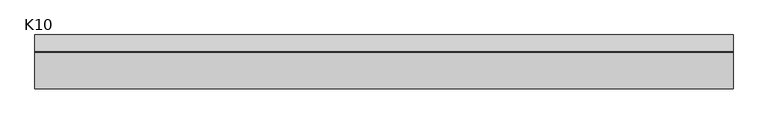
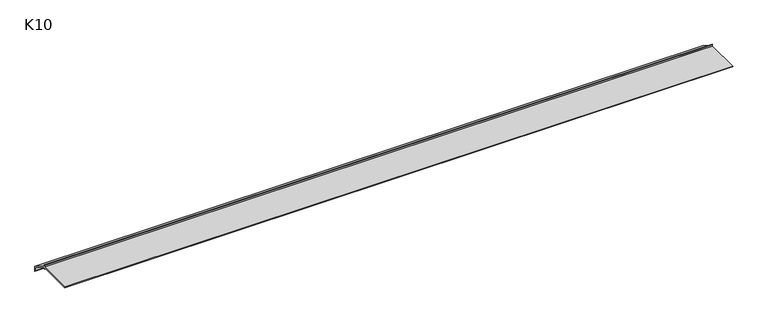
"""IFC4 building model written with IfcOpenShell, lengths in millimetres: proxy geometry, K10 Profil okapowy prosty bez rynny : K10."""

from ifc_helpers import new_model, si_unit, frame, origin, place, context, project, spatial, polyline, outline, extrude, source, transform, mapped, element, save


def k10_6952bd4f(model_context):
    return source(origin(), model_context, "Body", "SweptSolid", [
        extrude(outline(polyline([(1.25, -3.0), (31.25, -21.1), (31.25, -30.42), (30.0, -29.17), (30.0, -21.8057194), (1.25, -4.4598861), (1.25, -7.25), (0.0, -7.25), (0.0, -4.25), (-65.0, -4.25), (-65.0, -3.0), (0.0, -3.0), (0.0, 0.0), (1.25, 0.0), (1.25, -3.0)])), frame((0.0, 0.0, 0.0), z_axis=(1.0, 0.0, 0.0), x_axis=(0.0, 1.0, 0.0)), (0.0, 0.0, 1.0), 1245.5705088),
    ])


if __name__ == "__main__":
    model = new_model("IFC4")
    model_context = context("Model", 3, world=origin())
    ifc_project = project(units=[si_unit("LENGTHUNIT", "METRE", prefix="MILLI")], contexts=[model_context])
    site = spatial("IfcSite", under=ifc_project)
    building = spatial("IfcBuilding", under=site)
    placement = place(None, origin())
    k10_shape = k10_6952bd4f(model_context)
    element("IfcBuildingElementProxy", 1, Name="K10 Profil okapowy prosty bez rynny : K10", ObjectType="K10 Profil okapowy prosty bez rynny : K10", at=placement, inside=building, context=model_context, shape_type="MappedRepresentation", body=[
        mapped(k10_shape, transform((0.0, 0.0, 0.0), x_axis=(1.0, 0.0, 0.0), y_axis=(0.0, 1.0, 0.0), z_axis=(0.0, 0.0, 1.0))),
    ])
    save(model, "model.ifc")
